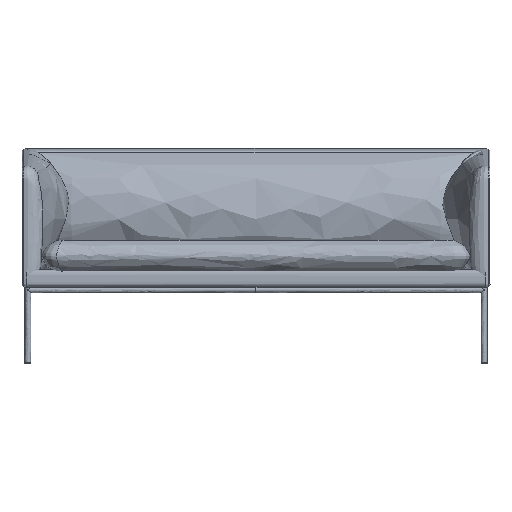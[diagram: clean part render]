
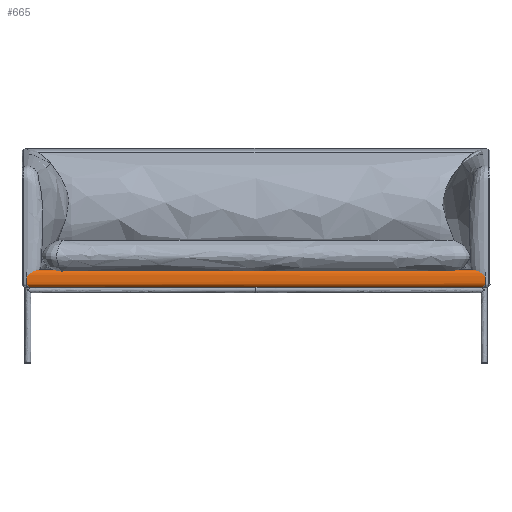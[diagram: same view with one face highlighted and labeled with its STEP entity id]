
A CAD part, front view. The second image highlights one B-rep face of the part: STEP entity #665.
In plain terms, the highlighted free-form (B-spline) face has degree [5, 1] with [14, 2] control points.
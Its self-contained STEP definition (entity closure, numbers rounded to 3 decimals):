
#665=ADVANCED_FACE('',(#885),#6458,.T.);
#885=FACE_OUTER_BOUND('',#1105,.T.);
#1105=EDGE_LOOP('',(#1360,#1361,#1362,#1363));
#1360=ORIENTED_EDGE('',*,*,#4642,.T.);
#1361=ORIENTED_EDGE('',*,*,#4643,.T.);
#1362=ORIENTED_EDGE('',*,*,#4644,.T.);
#1363=ORIENTED_EDGE('',*,*,#4640,.F.);
#2284=PCURVE('',#6457,#3210);
#2286=PCURVE('',#6458,#3212);
#2287=PCURVE('',#6458,#3213);
#2288=PCURVE('',#6458,#3214);
#2289=PCURVE('',#6458,#3215);
#2292=PCURVE('',#6459,#3218);
#3210=DEFINITIONAL_REPRESENTATION('',(#5156),#21380);
#3212=DEFINITIONAL_REPRESENTATION('',(#5160),#21380);
#3213=DEFINITIONAL_REPRESENTATION('',(#5162),#21380);
#3214=DEFINITIONAL_REPRESENTATION('',(#5164),#21380);
#3215=DEFINITIONAL_REPRESENTATION('',(#5165),#21380);
#3218=DEFINITIONAL_REPRESENTATION('',(#5169),#21380);
#4135=SURFACE_CURVE('',#5155,(#2284,#2289),.PCURVE_S1.);
#4137=SURFACE_CURVE('',#5159,(#2286),.PCURVE_S1.);
#4138=SURFACE_CURVE('',#5161,(#2287,#2292),.PCURVE_S1.);
#4139=SURFACE_CURVE('',#5163,(#2288),.PCURVE_S1.);
#4640=EDGE_CURVE('',#6143,#6144,#4135,.T.);
#4642=EDGE_CURVE('',#6143,#6145,#4137,.T.);
#4643=EDGE_CURVE('',#6145,#6146,#4138,.T.);
#4644=EDGE_CURVE('',#6146,#6144,#4139,.T.);
#5155=B_SPLINE_CURVE_WITH_KNOTS('',1,(#6706,#6707),.UNSPECIFIED.,.F.,.F.,
(2,2),(0.,1550.),.UNSPECIFIED.);
#5156=B_SPLINE_CURVE_WITH_KNOTS('',1,(#6708,#6709),.UNSPECIFIED.,.F.,.F.,
(2,2),(0.,1550.),.UNSPECIFIED.);
#5159=B_SPLINE_CURVE_WITH_KNOTS('',5,(#6714,#6715,#6716,#6717,#6718,#6719,
#6720,#6721,#6722,#6723,#6724,#6725,#6726,#6727),.UNSPECIFIED.,.F.,.F.,
(6,5,3,6),(-1.,0.,32.44,64.879),.UNSPECIFIED.);
#5160=B_SPLINE_CURVE_WITH_KNOTS('',1,(#6728,#6729),.UNSPECIFIED.,.F.,.F.,
(2,2),(-1.,64.879),.UNSPECIFIED.);
#5161=B_SPLINE_CURVE_WITH_KNOTS('',1,(#6730,#6731),.UNSPECIFIED.,.F.,.F.,
(2,2),(0.,1550.),.UNSPECIFIED.);
#5162=B_SPLINE_CURVE_WITH_KNOTS('',1,(#6732,#6733),.UNSPECIFIED.,.F.,.F.,
(2,2),(0.,1550.),.UNSPECIFIED.);
#5163=B_SPLINE_CURVE_WITH_KNOTS('',5,(#6734,#6735,#6736,#6737,#6738,#6739,
#6740,#6741,#6742,#6743,#6744,#6745,#6746,#6747),.UNSPECIFIED.,.F.,.F.,
(6,3,5,6),(-64.879,-32.44,0.,1.),.UNSPECIFIED.);
#5164=B_SPLINE_CURVE_WITH_KNOTS('',1,(#6748,#6749),.UNSPECIFIED.,.F.,.F.,
(2,2),(-64.879,1.),.UNSPECIFIED.);
#5165=B_SPLINE_CURVE_WITH_KNOTS('',1,(#6750,#6751),.UNSPECIFIED.,.F.,.F.,
(2,2),(0.,1550.),.UNSPECIFIED.);
#5169=B_SPLINE_CURVE_WITH_KNOTS('',1,(#6758,#6759),.UNSPECIFIED.,.F.,.F.,
(2,2),(0.,1550.),.UNSPECIFIED.);
#6143=VERTEX_POINT('',#6664);
#6144=VERTEX_POINT('',#6665);
#6145=VERTEX_POINT('',#6666);
#6146=VERTEX_POINT('',#6667);
#6457=B_SPLINE_SURFACE_WITH_KNOTS('',1,1,((#6620,#6621),(#6622,#6623)),
 .UNSPECIFIED.,.F.,.F.,.F.,(2,2),(2,2),(-156.735,1722.881),
(-36.211,-5.69),.UNSPECIFIED.);
#6458=B_SPLINE_SURFACE_WITH_KNOTS('',5,1,((#6624,#6625),(#6626,#6627),(#6628,
#6629),(#6630,#6631),(#6632,#6633),(#6634,#6635),(#6636,#6637),(#6638,#6639),
(#6640,#6641),(#6642,#6643),(#6644,#6645),(#6646,#6647),(#6648,#6649),(#6650,
#6651)),.UNSPECIFIED.,.F.,.F.,.F.,(6,5,3,6),(2,2),(-1.,0.,32.44,
64.879),(0.,1550.),.UNSPECIFIED.);
#6459=B_SPLINE_SURFACE_WITH_KNOTS('',1,1,((#6652,#6653),(#6654,#6655)),
 .UNSPECIFIED.,.F.,.F.,.F.,(2,2),(2,2),(-1722.881,156.735),
(-14.335,156.49),.UNSPECIFIED.);
#6620=CARTESIAN_POINT('',(113.084,20.434,260.));
#6621=CARTESIAN_POINT('',(113.084,50.955,260.));
#6622=CARTESIAN_POINT('',(1992.7,20.434,260.));
#6623=CARTESIAN_POINT('',(1992.7,50.955,260.));
#6624=CARTESIAN_POINT('',(269.819,23.077,260.));
#6625=CARTESIAN_POINT('',(1835.966,23.077,260.));
#6626=CARTESIAN_POINT('',(269.819,18.691,260.));
#6627=CARTESIAN_POINT('',(1835.966,18.691,260.));
#6628=CARTESIAN_POINT('',(269.819,14.305,260.));
#6629=CARTESIAN_POINT('',(1835.966,14.305,260.));
#6630=CARTESIAN_POINT('',(269.819,7.648,266.246));
#6631=CARTESIAN_POINT('',(1835.966,7.648,266.246));
#6632=CARTESIAN_POINT('',(269.819,7.327,270.621));
#6633=CARTESIAN_POINT('',(1835.966,7.327,270.621));
#6634=CARTESIAN_POINT('',(269.819,7.077,275.));
#6635=CARTESIAN_POINT('',(1835.966,7.077,275.));
#6636=CARTESIAN_POINT('',(269.819,5.877,296.016));
#6637=CARTESIAN_POINT('',(1835.966,5.877,296.016));
#6638=CARTESIAN_POINT('',(269.819,6.854,307.574));
#6639=CARTESIAN_POINT('',(1835.966,6.854,307.574));
#6640=CARTESIAN_POINT('',(269.819,9.197,312.702));
#6641=CARTESIAN_POINT('',(1835.966,9.197,312.702));
#6642=CARTESIAN_POINT('',(269.819,14.995,316.152));
#6643=CARTESIAN_POINT('',(1835.966,14.995,316.152));
#6644=CARTESIAN_POINT('',(269.819,19.772,318.105));
#6645=CARTESIAN_POINT('',(1835.966,19.772,318.105));
#6646=CARTESIAN_POINT('',(269.819,22.344,318.731));
#6647=CARTESIAN_POINT('',(1835.966,22.344,318.731));
#6648=CARTESIAN_POINT('',(269.819,25.539,319.032));
#6649=CARTESIAN_POINT('',(1835.966,25.539,319.032));
#6650=CARTESIAN_POINT('',(269.819,29.795,319.032));
#6651=CARTESIAN_POINT('',(1835.966,29.795,319.032));
#6652=CARTESIAN_POINT('',(1992.7,15.459,319.032));
#6653=CARTESIAN_POINT('',(1992.7,186.285,319.032));
#6654=CARTESIAN_POINT('',(113.084,15.459,319.032));
#6655=CARTESIAN_POINT('',(113.084,186.285,319.032));
#6664=CARTESIAN_POINT('',(269.819,23.077,260.));
#6665=CARTESIAN_POINT('',(1835.966,23.077,260.));
#6666=CARTESIAN_POINT('',(269.819,29.795,319.032));
#6667=CARTESIAN_POINT('',(1835.966,29.795,319.032));
#6706=CARTESIAN_POINT('',(269.819,23.077,260.));
#6707=CARTESIAN_POINT('',(1835.966,23.077,260.));
#6708=CARTESIAN_POINT('',(0.,-33.568));
#6709=CARTESIAN_POINT('',(1566.146,-33.568));
#6714=CARTESIAN_POINT('',(269.819,23.077,260.));
#6715=CARTESIAN_POINT('',(269.819,18.691,260.));
#6716=CARTESIAN_POINT('',(269.819,14.305,260.));
#6717=CARTESIAN_POINT('',(269.819,7.648,266.246));
#6718=CARTESIAN_POINT('',(269.819,7.327,270.621));
#6719=CARTESIAN_POINT('',(269.819,7.077,275.));
#6720=CARTESIAN_POINT('',(269.819,5.877,296.016));
#6721=CARTESIAN_POINT('',(269.819,6.854,307.574));
#6722=CARTESIAN_POINT('',(269.819,9.197,312.702));
#6723=CARTESIAN_POINT('',(269.819,14.995,316.152));
#6724=CARTESIAN_POINT('',(269.819,19.772,318.105));
#6725=CARTESIAN_POINT('',(269.819,22.344,318.731));
#6726=CARTESIAN_POINT('',(269.819,25.539,319.032));
#6727=CARTESIAN_POINT('',(269.819,29.795,319.032));
#6728=CARTESIAN_POINT('',(-1.,0.));
#6729=CARTESIAN_POINT('',(64.879,0.));
#6730=CARTESIAN_POINT('',(269.819,29.795,319.032));
#6731=CARTESIAN_POINT('',(1835.966,29.795,319.032));
#6732=CARTESIAN_POINT('',(64.879,0.));
#6733=CARTESIAN_POINT('',(64.879,1550.));
#6734=CARTESIAN_POINT('',(1835.966,29.795,319.032));
#6735=CARTESIAN_POINT('',(1835.966,25.539,319.032));
#6736=CARTESIAN_POINT('',(1835.966,22.344,318.731));
#6737=CARTESIAN_POINT('',(1835.966,19.772,318.105));
#6738=CARTESIAN_POINT('',(1835.966,14.995,316.152));
#6739=CARTESIAN_POINT('',(1835.966,9.197,312.702));
#6740=CARTESIAN_POINT('',(1835.966,6.854,307.574));
#6741=CARTESIAN_POINT('',(1835.966,5.877,296.016));
#6742=CARTESIAN_POINT('',(1835.966,7.077,275.));
#6743=CARTESIAN_POINT('',(1835.966,7.327,270.621));
#6744=CARTESIAN_POINT('',(1835.966,7.648,266.246));
#6745=CARTESIAN_POINT('',(1835.966,14.305,260.));
#6746=CARTESIAN_POINT('',(1835.966,18.691,260.));
#6747=CARTESIAN_POINT('',(1835.966,23.077,260.));
#6748=CARTESIAN_POINT('',(64.879,1550.));
#6749=CARTESIAN_POINT('',(-1.,1550.));
#6750=CARTESIAN_POINT('',(-1.,0.));
#6751=CARTESIAN_POINT('',(-1.,1550.));
#6758=CARTESIAN_POINT('',(0.,0.));
#6759=CARTESIAN_POINT('',(-1566.146,0.));
#21380=(
GEOMETRIC_REPRESENTATION_CONTEXT(2)
PARAMETRIC_REPRESENTATION_CONTEXT()
REPRESENTATION_CONTEXT('pspace','')
);
